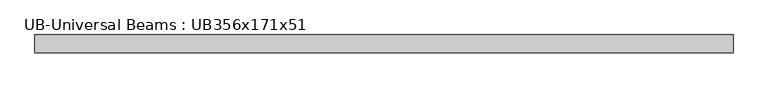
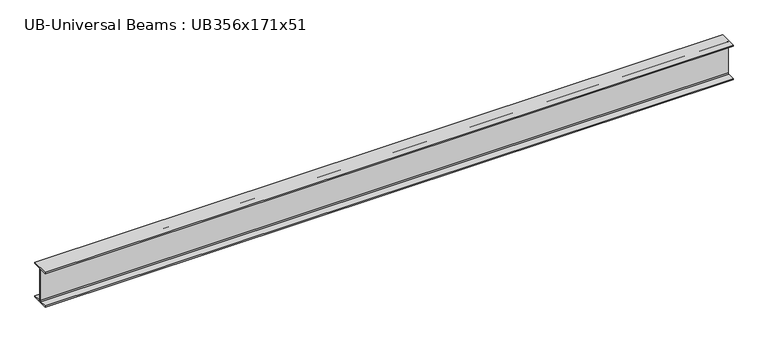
"""IFC4 building model written with IfcOpenShell, lengths in millimetres: beam geometry, UB-Universal Beams : UB356x171x51."""

from ifc_helpers import new_model, si_unit, point, frame, frame_2d, origin, place, context, project, spatial, polyline, circle_curve, trimmed, segment, composite_curve, outline, extrude, source, transform, mapped, element, save


def ub_universal_beams_ub356x171x51_145ecd4b(model_context):
    return source(origin(), model_context, "Body", "SweptSolid", [
        extrude(outline(composite_curve([segment(polyline([(85.75, -166.0), (85.75, -177.5), (-85.75, -177.5), (-85.75, -166.0), (-13.9, -166.0)]), True, "CONTINUOUS"), segment(trimmed(circle_curve(frame_2d((-13.9, -155.8)), 10.2), [point((-13.9, -166.0))], [point((-3.7, -155.8))], True, "CARTESIAN"), True, "CONTINUOUS"), segment(polyline([(-3.7, -155.8), (-3.7, 155.8)]), True, "CONTINUOUS"), segment(trimmed(circle_curve(frame_2d((-13.9, 155.8)), 10.2), [point((-3.7, 155.8))], [point((-13.9, 166.0))], True, "CARTESIAN"), True, "CONTINUOUS"), segment(polyline([(-13.9, 166.0), (-85.75, 166.0), (-85.75, 177.5), (85.75, 177.5), (85.75, 166.0), (13.9, 166.0)]), True, "CONTINUOUS"), segment(trimmed(circle_curve(frame_2d((13.9, 155.8)), 10.2), [point((13.9, 166.0))], [point((3.7, 155.8))], True, "CARTESIAN"), True, "CONTINUOUS"), segment(polyline([(3.7, 155.8), (3.7, -155.8)]), True, "CONTINUOUS"), segment(trimmed(circle_curve(frame_2d((13.9, -155.8)), 10.2), [point((3.7, -155.8))], [point((13.9, -166.0))], True, "CARTESIAN"), True, "CONTINUOUS"), segment(polyline([(13.9, -166.0), (85.75, -166.0)]), True, "CONTINUOUS")], self_intersect=False)), frame((-3335.1, 0.0, 0.0), z_axis=(1.0, 0.0, 0.0), x_axis=(0.0, 1.0, 0.0)), (0.0, 0.0, 1.0), 6670.2),
    ])


if __name__ == "__main__":
    model = new_model("IFC4")
    model_context = context("Model", 3, world=origin())
    ifc_project = project(units=[si_unit("LENGTHUNIT", "METRE", prefix="MILLI")], contexts=[model_context])
    site = spatial("IfcSite", under=ifc_project)
    building = spatial("IfcBuilding", under=site)
    placement = place(None, origin())
    ub_universal_beams_ub356x171x51_shape = ub_universal_beams_ub356x171x51_145ecd4b(model_context)
    element("IfcBeam", 1, ObjectType="UB-Universal Beams : UB356x171x51", at=placement, inside=building, context=model_context, shape_type="MappedRepresentation", body=[
        mapped(ub_universal_beams_ub356x171x51_shape, transform((0.0, 0.0, 0.0), x_axis=(1.0, 0.0, 0.0), y_axis=(0.0, 1.0, 0.0), z_axis=(0.0, 0.0, 1.0))),
    ])
    save(model, "model.ifc")
